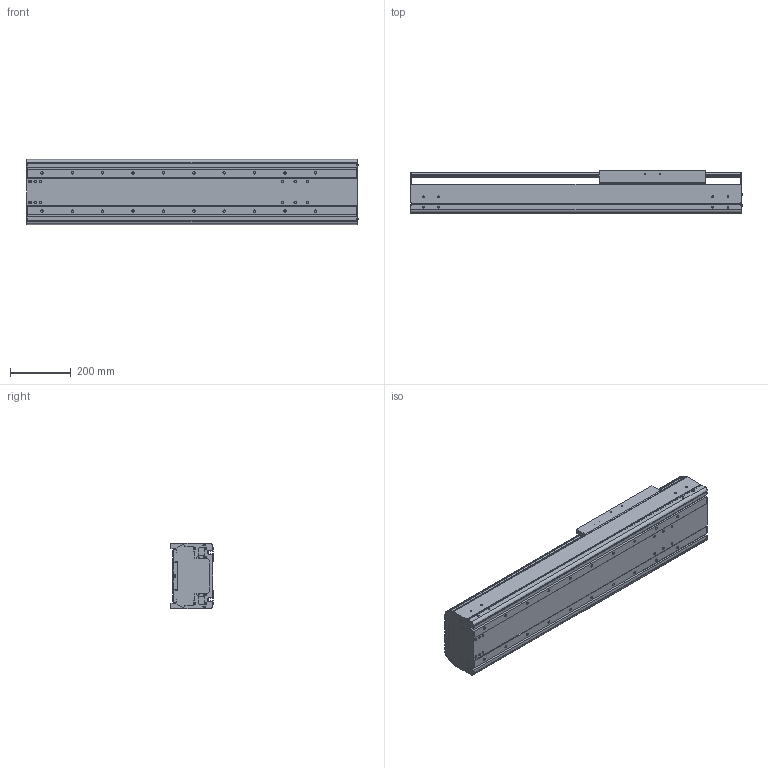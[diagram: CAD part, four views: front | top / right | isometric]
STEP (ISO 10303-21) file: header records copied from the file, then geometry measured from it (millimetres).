
FILE_DESCRIPTION((''),'2;1');
FILE_NAME('BE60J-ST-L_N-55_IGS_PRT','2017-06-18T',(' '),(''),'PRO/ENGINEER BY PARAMETRIC TECHNOLOGY CORPORATION, 2015030','PRO/ENGINEER BY PARAMETRIC TECHNOLOGY CORPORATION, 2015030','');
FILE_SCHEMA(('CONFIG_CONTROL_DESIGN'));
Length unit declared in the file: millimetre
Products named in the file (1): BE60J-ST-L_N-55_IGS_PRT
Bounding box: 1092.4 x 140 x 214 mm (x, y, z)
Volume: 9070217.9 mm3; surface area: 2449901.5 mm2
Topology: 2 solids, 106 shells, 1387 faces, 3858 edges, 2555 vertices
Faces by surface type: cylinder 696, plane 583, cone 60, torus 24, sphere 24
Entity records: 46246 total; most frequent: CARTESIAN_POINT 10171, DIRECTION 7580, ORIENTED_EDGE 7192, EDGE_CURVE 3800, AXIS2_PLACEMENT_3D 2804, VERTEX_POINT 2554, VECTOR 1972, LINE 1972
